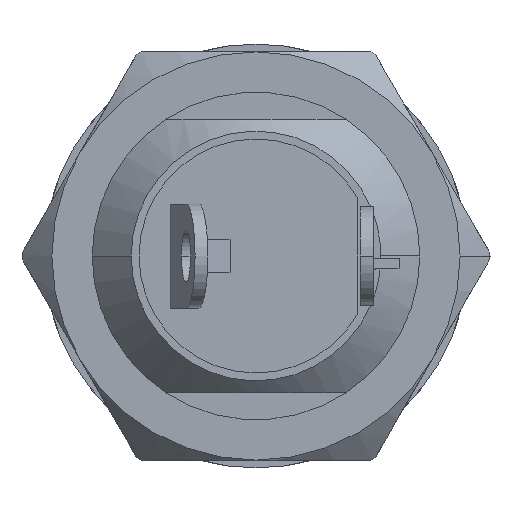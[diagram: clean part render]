
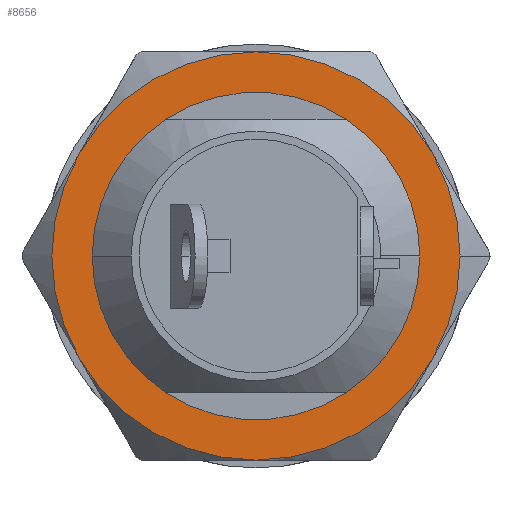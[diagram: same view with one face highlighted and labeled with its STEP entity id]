
A CAD part, front view. The second image highlights one B-rep face of the part: STEP entity #8656.
In plain terms, the highlighted planar face has unit normal (0, -1, 0).
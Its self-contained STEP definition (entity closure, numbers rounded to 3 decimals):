
#265 = EDGE_LOOP ( 'NONE', ( #2136, #2132, #2138, #2134, #2128, #2126 ) ) ;
#266 = EDGE_LOOP ( 'NONE', ( #2124, #2123, #2130, #2119, #2121, #2117, #2115 ) ) ;
#416 = EDGE_CURVE ( 'NONE', #868, #867, #3533, .T. ) ;
#417 = EDGE_CURVE ( 'NONE', #1121, #832, #3534, .T. ) ;
#418 = EDGE_CURVE ( 'NONE', #833, #1122, #3535, .T. ) ;
#419 = EDGE_CURVE ( 'NONE', #1122, #1123, #3536, .T. ) ;
#422 = EDGE_CURVE ( 'NONE', #1123, #1124, #3539, .T. ) ;
#425 = EDGE_CURVE ( 'NONE', #1124, #1125, #3541, .T. ) ;
#427 = EDGE_CURVE ( 'NONE', #1125, #1121, #3542, .T. ) ;
#832 = VERTEX_POINT ( 'NONE', #3026 ) ;
#833 = VERTEX_POINT ( 'NONE', #3027 ) ;
#866 = VERTEX_POINT ( 'NONE', #3075 ) ;
#867 = VERTEX_POINT ( 'NONE', #3076 ) ;
#868 = VERTEX_POINT ( 'NONE', #3078 ) ;
#869 = VERTEX_POINT ( 'NONE', #3079 ) ;
#890 = VERTEX_POINT ( 'NONE', #3110 ) ;
#891 = VERTEX_POINT ( 'NONE', #3112 ) ;
#1121 = VERTEX_POINT ( 'NONE', #3931 ) ;
#1122 = VERTEX_POINT ( 'NONE', #3932 ) ;
#1123 = VERTEX_POINT ( 'NONE', #3933 ) ;
#1124 = VERTEX_POINT ( 'NONE', #3934 ) ;
#1125 = VERTEX_POINT ( 'NONE', #3935 ) ;
#2080 = AXIS2_PLACEMENT_3D ( 'NONE', #2953, #2955, #2956 ) ;
#2084 = AXIS2_PLACEMENT_3D ( 'NONE', #2934, #2940, #2942 ) ;
#2088 = AXIS2_PLACEMENT_3D ( 'NONE', #2943, #2944, #2946 ) ;
#2090 = AXIS2_PLACEMENT_3D ( 'NONE', #2947, #2949, #2951 ) ;
#2094 = AXIS2_PLACEMENT_3D ( 'NONE', #2966, #2967, #2968 ) ;
#2101 = AXIS2_PLACEMENT_3D ( 'NONE', #2983, #2989, #2990 ) ;
#2103 = AXIS2_PLACEMENT_3D ( 'NONE', #2974, #2980, #2981 ) ;
#2115 = ORIENTED_EDGE ( 'NONE', *, *, #427, .T. ) ;
#2117 = ORIENTED_EDGE ( 'NONE', *, *, #425, .T. ) ;
#2119 = ORIENTED_EDGE ( 'NONE', *, *, #419, .T. ) ;
#2121 = ORIENTED_EDGE ( 'NONE', *, *, #422, .T. ) ;
#2123 = ORIENTED_EDGE ( 'NONE', *, *, #5057, .T. ) ;
#2124 = ORIENTED_EDGE ( 'NONE', *, *, #417, .T. ) ;
#2126 = ORIENTED_EDGE ( 'NONE', *, *, #5090, .T. ) ;
#2128 = ORIENTED_EDGE ( 'NONE', *, *, #5128, .T. ) ;
#2130 = ORIENTED_EDGE ( 'NONE', *, *, #418, .T. ) ;
#2132 = ORIENTED_EDGE ( 'NONE', *, *, #5088, .T. ) ;
#2134 = ORIENTED_EDGE ( 'NONE', *, *, #416, .T. ) ;
#2136 = ORIENTED_EDGE ( 'NONE', *, *, #5033, .T. ) ;
#2138 = ORIENTED_EDGE ( 'NONE', *, *, #5130, .T. ) ;
#2150 = AXIS2_PLACEMENT_3D ( 'NONE', #4098, #4099, #4100 ) ;
#2207 = AXIS2_PLACEMENT_3D ( 'NONE', #4177, #4187, #4188 ) ;
#2285 = AXIS2_PLACEMENT_3D ( 'NONE', #4283, #4284, #4285 ) ;
#2289 = AXIS2_PLACEMENT_3D ( 'NONE', #4304, #4305, #4306 ) ;
#2350 = AXIS2_PLACEMENT_3D ( 'NONE', #4442, #4443, #4444 ) ;
#2384 = AXIS2_PLACEMENT_3D ( 'NONE', #4418, #4422, #4423 ) ;
#2934 = CARTESIAN_POINT ( 'NONE',  ( 0., 9.4, 0. ) ) ;
#2940 = DIRECTION ( 'NONE',  ( 0., 1., 0. ) ) ;
#2942 = DIRECTION ( 'NONE',  ( 1., 0., 0. ) ) ;
#2943 = CARTESIAN_POINT ( 'NONE',  ( 0., 9.4, 0. ) ) ;
#2944 = DIRECTION ( 'NONE',  ( 0., -1., 0. ) ) ;
#2946 = DIRECTION ( 'NONE',  ( 1., 0., 0. ) ) ;
#2947 = CARTESIAN_POINT ( 'NONE',  ( 0., 9.4, 0. ) ) ;
#2949 = DIRECTION ( 'NONE',  ( 0., -1., 0. ) ) ;
#2951 = DIRECTION ( 'NONE',  ( 1., 0., 0. ) ) ;
#2953 = CARTESIAN_POINT ( 'NONE',  ( 0., 9.4, 0. ) ) ;
#2955 = DIRECTION ( 'NONE',  ( 0., -1., 0. ) ) ;
#2956 = DIRECTION ( 'NONE',  ( 1., 0., 0. ) ) ;
#2966 = CARTESIAN_POINT ( 'NONE',  ( 0., 9.4, 0. ) ) ;
#2967 = DIRECTION ( 'NONE',  ( 0., -1., 0. ) ) ;
#2968 = DIRECTION ( 'NONE',  ( 1., 0., 0. ) ) ;
#2974 = CARTESIAN_POINT ( 'NONE',  ( 0., 9.4, 0. ) ) ;
#2980 = DIRECTION ( 'NONE',  ( 0., -1., 0. ) ) ;
#2981 = DIRECTION ( 'NONE',  ( 1., 0., 0. ) ) ;
#2983 = CARTESIAN_POINT ( 'NONE',  ( 0., 9.4, 0. ) ) ;
#2989 = DIRECTION ( 'NONE',  ( 0., -1., 0. ) ) ;
#2990 = DIRECTION ( 'NONE',  ( 1., 0., 0. ) ) ;
#3026 = CARTESIAN_POINT ( 'NONE',  ( 7.85, 9.4, 0. ) ) ;
#3027 = CARTESIAN_POINT ( 'NONE',  ( 6.798, 9.4, 3.925 ) ) ;
#3075 = CARTESIAN_POINT ( 'NONE',  ( 6.3, 9.4, 0. ) ) ;
#3076 = CARTESIAN_POINT ( 'NONE',  ( 3.482, 9.4, 5.25 ) ) ;
#3078 = CARTESIAN_POINT ( 'NONE',  ( -3.482, 9.4, 5.25 ) ) ;
#3079 = CARTESIAN_POINT ( 'NONE',  ( -6.3, 9.4, 0. ) ) ;
#3110 = CARTESIAN_POINT ( 'NONE',  ( -3.482, 9.4, -5.25 ) ) ;
#3112 = CARTESIAN_POINT ( 'NONE',  ( 3.482, 9.4, -5.25 ) ) ;
#3445 = FACE_BOUND ( 'NONE', #265, .T. ) ;
#3447 = FACE_OUTER_BOUND ( 'NONE', #266, .T. ) ;
#3453 = AXIS2_PLACEMENT_3D ( 'NONE', #7072, #7073, #7074 ) ;
#3533 = CIRCLE ( 'NONE', #2084, 6.3 ) ;
#3534 = CIRCLE ( 'NONE', #2088, 7.85 ) ;
#3535 = CIRCLE ( 'NONE', #2090, 7.85 ) ;
#3536 = CIRCLE ( 'NONE', #2080, 7.85 ) ;
#3539 = CIRCLE ( 'NONE', #2094, 7.85 ) ;
#3541 = CIRCLE ( 'NONE', #2103, 7.85 ) ;
#3542 = CIRCLE ( 'NONE', #2101, 7.85 ) ;
#3562 = CIRCLE ( 'NONE', #2150, 6.3 ) ;
#3574 = CIRCLE ( 'NONE', #2207, 7.85 ) ;
#3595 = CIRCLE ( 'NONE', #2285, 6.3 ) ;
#3596 = CIRCLE ( 'NONE', #2289, 6.3 ) ;
#3608 = CIRCLE ( 'NONE', #2384, 6.3 ) ;
#3609 = CIRCLE ( 'NONE', #2350, 6.3 ) ;
#3931 = CARTESIAN_POINT ( 'NONE',  ( 6.798, 9.4, -3.925 ) ) ;
#3932 = CARTESIAN_POINT ( 'NONE',  ( 0., 9.4, 7.85 ) ) ;
#3933 = CARTESIAN_POINT ( 'NONE',  ( -6.798, 9.4, 3.925 ) ) ;
#3934 = CARTESIAN_POINT ( 'NONE',  ( -6.798, 9.4, -3.925 ) ) ;
#3935 = CARTESIAN_POINT ( 'NONE',  ( 0., 9.4, -7.85 ) ) ;
#4098 = CARTESIAN_POINT ( 'NONE',  ( 0., 9.4, 0. ) ) ;
#4099 = DIRECTION ( 'NONE',  ( 0., 1., 0. ) ) ;
#4100 = DIRECTION ( 'NONE',  ( -1., 0., 0. ) ) ;
#4177 = CARTESIAN_POINT ( 'NONE',  ( 0., 9.4, 0. ) ) ;
#4187 = DIRECTION ( 'NONE',  ( 0., -1., 0. ) ) ;
#4188 = DIRECTION ( 'NONE',  ( 1., 0., 0. ) ) ;
#4283 = CARTESIAN_POINT ( 'NONE',  ( 0., 9.4, 0. ) ) ;
#4284 = DIRECTION ( 'NONE',  ( 0., 1., 0. ) ) ;
#4285 = DIRECTION ( 'NONE',  ( -1., 0., 0. ) ) ;
#4304 = CARTESIAN_POINT ( 'NONE',  ( 0., 9.4, 0. ) ) ;
#4305 = DIRECTION ( 'NONE',  ( 0., 1., 0. ) ) ;
#4306 = DIRECTION ( 'NONE',  ( -1., 0., 0. ) ) ;
#4418 = CARTESIAN_POINT ( 'NONE',  ( 0., 9.4, 0. ) ) ;
#4422 = DIRECTION ( 'NONE',  ( 0., 1., 0. ) ) ;
#4423 = DIRECTION ( 'NONE',  ( -1., 0., 0. ) ) ;
#4442 = CARTESIAN_POINT ( 'NONE',  ( 0., 9.4, 0. ) ) ;
#4443 = DIRECTION ( 'NONE',  ( 0., 1., 0. ) ) ;
#4444 = DIRECTION ( 'NONE',  ( -1., 0., 0. ) ) ;
#5033 = EDGE_CURVE ( 'NONE', #891, #890, #3562, .T. ) ;
#5057 = EDGE_CURVE ( 'NONE', #832, #833, #3574, .T. ) ;
#5088 = EDGE_CURVE ( 'NONE', #890, #869, #3595, .T. ) ;
#5090 = EDGE_CURVE ( 'NONE', #866, #891, #3596, .T. ) ;
#5128 = EDGE_CURVE ( 'NONE', #867, #866, #3608, .T. ) ;
#5130 = EDGE_CURVE ( 'NONE', #869, #868, #3609, .T. ) ;
#7071 = PLANE ( 'NONE',  #3453 ) ;
#7072 = CARTESIAN_POINT ( 'NONE',  ( -6.3, 9.4, 0. ) ) ;
#7073 = DIRECTION ( 'NONE',  ( 0., -1., 0. ) ) ;
#7074 = DIRECTION ( 'NONE',  ( 1., 0., 0. ) ) ;
#8656 = ADVANCED_FACE ( 'NONE', ( #3445, #3447 ), #7071, .T. ) ;
